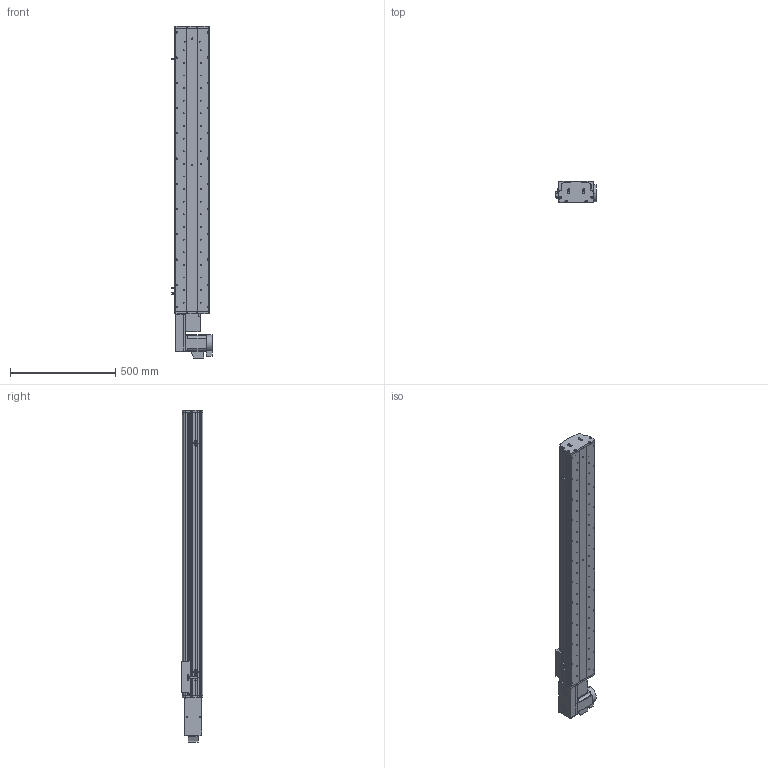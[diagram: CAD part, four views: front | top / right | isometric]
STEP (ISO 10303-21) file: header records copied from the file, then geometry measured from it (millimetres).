
FILE_DESCRIPTION (( 'STEP AP214' ), '1' );
FILE_NAME ('KSD165B-S1100-MLB-CM.STEP', '2017-10-16T06:24:38', ( '微软用户' ), ( '微软中国' ), 'SwSTEP 2.0', 'SolidWorks 2014', '' );
FILE_SCHEMA (( 'AUTOMOTIVE_DESIGN' ));
Length unit declared in the file: millimetre
Products named in the file (17): HTPA26S5M250-A-H8 400W萇儂蚚 ; 130宽模组马达安装板连板左右折同步带; 130宽模组保护罩上下左右折-同步带; 165宽马达安装板同步带左-改; KSD165模组-同步带防尘盖1-1100行程; KSD165模组同步带底板-1100行程; 拸秶雄ん750W侜督萇儂; U倰嫖萇假蚾璃; U倰嫖萇EEㄜSX672; 覜茼え68遵圉猾敕; KSD165模组-同步带-防撞垫2; KSD165模组同步带-防撞垫1; KSD165耀郪-ヶ傷啣1-肮祭湍; KSD165模组-后端板1-同步带; KSD165模组-同步带滑动座-最新版; KSD165B-S1100-MLB-CM; HTPA26S5M250-A-H8 750W萇儂蚚
Assembly tree (20 placements, depth 2):
  KSD165B-S1100-MLB-CM
    KSD165模组-同步带滑动座-最新版
    KSD165模组-后端板1-同步带
    KSD165耀郪-ヶ傷啣1-肮祭湍
    KSD165模组同步带-防撞垫1
    KSD165模组-同步带-防撞垫2
    覜茼え68遵圉猾敕
    U倰嫖萇EEㄜSX672  x3
    U倰嫖萇假蚾璃  x3
    拸秶雄ん750W侜督萇儂
    KSD165模组同步带底板-1100行程
    KSD165模组-同步带防尘盖1-1100行程
    165宽马达安装板同步带左-改
    130宽模组保护罩上下左右折-同步带
    130宽模组马达安装板连板左右折同步带
    HTPA26S5M250-A-H8 400W萇儂蚚 
    HTPA26S5M250-A-H8 750W萇儂蚚
Bounding box: 191.2 x 104 x 1578 mm (x, y, z)
Volume: 8366472.4 mm3; surface area: 1948565.1 mm2
Topology: 21 solids, 22 shells, 1993 faces, 5628 edges, 3676 vertices
Faces by surface type: cylinder 1289, plane 592, cone 112
Entity records: 64952 total; most frequent: CARTESIAN_POINT 13326, DIRECTION 10652, ORIENTED_EDGE 9916, EDGE_CURVE 4958, AXIS2_PLACEMENT_3D 4184, VERTEX_POINT 3268, CIRCLE 2388, LINE 2284
